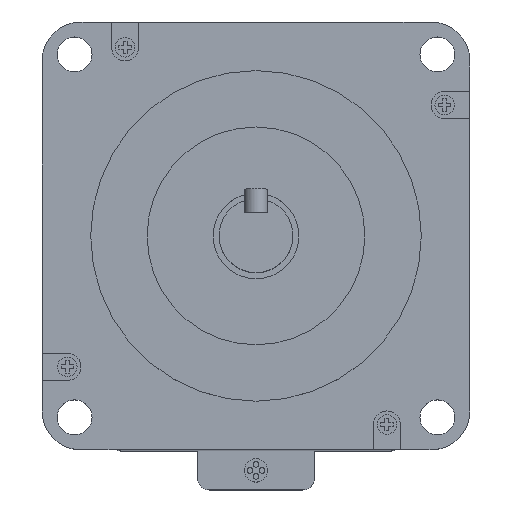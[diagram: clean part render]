
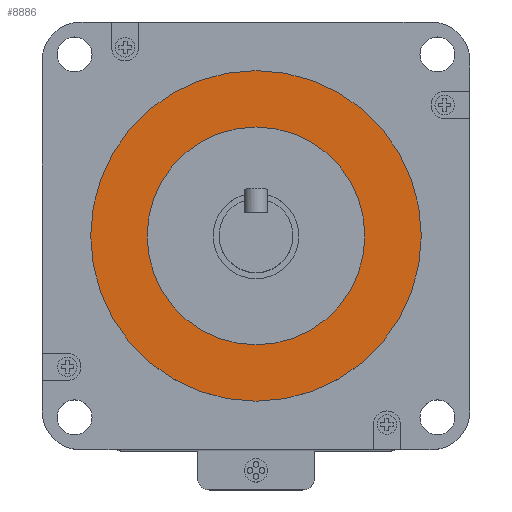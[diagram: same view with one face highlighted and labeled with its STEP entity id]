
A CAD part, top view. The second image highlights one B-rep face of the part: STEP entity #8886.
In plain terms, the highlighted planar face has unit normal (0, 0, 1).
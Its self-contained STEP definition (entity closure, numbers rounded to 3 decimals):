
#57 = EDGE_CURVE ( 'NONE', #5222, #2328, #1989, .T. ) ;
#86 = FACE_BOUND ( 'NONE', #8125, .T. ) ;
#608 = ORIENTED_EDGE ( 'NONE', *, *, #6878, .F. ) ;
#1197 = DIRECTION ( 'NONE',  ( -1., 0., 0. ) ) ;
#1380 = ORIENTED_EDGE ( 'NONE', *, *, #4191, .F. ) ;
#1716 = AXIS2_PLACEMENT_3D ( 'NONE', #4685, #5412, #1197 ) ;
#1894 = CARTESIAN_POINT ( 'NONE',  ( 42.5, 0., 3.5 ) ) ;
#1989 = CIRCLE ( 'NONE', #1716, 42.5 ) ;
#2328 = VERTEX_POINT ( 'NONE', #8839 ) ;
#2784 = PLANE ( 'NONE',  #5245 ) ;
#2847 = CIRCLE ( 'NONE', #3081, 28. ) ;
#2910 = CARTESIAN_POINT ( 'NONE',  ( -28., 0., 3.5 ) ) ;
#3081 = AXIS2_PLACEMENT_3D ( 'NONE', #3500, #3464, #5647 ) ;
#3177 = AXIS2_PLACEMENT_3D ( 'NONE', #8312, #4044, #7525 ) ;
#3464 = DIRECTION ( 'NONE',  ( 0., 0., 1. ) ) ;
#3500 = CARTESIAN_POINT ( 'NONE',  ( 0., 0., 3.5 ) ) ;
#4044 = DIRECTION ( 'NONE',  ( 0., 0., -1. ) ) ;
#4191 = EDGE_CURVE ( 'NONE', #2328, #5222, #5044, .T. ) ;
#4241 = CARTESIAN_POINT ( 'NONE',  ( 0., 0., 3.5 ) ) ;
#4612 = CIRCLE ( 'NONE', #5352, 28. ) ;
#4685 = CARTESIAN_POINT ( 'NONE',  ( 0., 0., 3.5 ) ) ;
#4853 = DIRECTION ( 'NONE',  ( -1., 0., 0. ) ) ;
#4915 = EDGE_LOOP ( 'NONE', ( #1380, #8748 ) ) ;
#5044 = CIRCLE ( 'NONE', #3177, 42.5 ) ;
#5222 = VERTEX_POINT ( 'NONE', #1894 ) ;
#5245 = AXIS2_PLACEMENT_3D ( 'NONE', #4241, #7749, #8413 ) ;
#5352 = AXIS2_PLACEMENT_3D ( 'NONE', #7711, #6997, #4853 ) ;
#5412 = DIRECTION ( 'NONE',  ( 0., 0., -1. ) ) ;
#5647 = DIRECTION ( 'NONE',  ( -1., 0., 0. ) ) ;
#6059 = VERTEX_POINT ( 'NONE', #7196 ) ;
#6382 = FACE_OUTER_BOUND ( 'NONE', #4915, .T. ) ;
#6673 = VERTEX_POINT ( 'NONE', #2910 ) ;
#6878 = EDGE_CURVE ( 'NONE', #6059, #6673, #4612, .T. ) ;
#6882 = ORIENTED_EDGE ( 'NONE', *, *, #7961, .F. ) ;
#6997 = DIRECTION ( 'NONE',  ( 0., 0., 1. ) ) ;
#7196 = CARTESIAN_POINT ( 'NONE',  ( 28., 0., 3.5 ) ) ;
#7525 = DIRECTION ( 'NONE',  ( -1., 0., 0. ) ) ;
#7711 = CARTESIAN_POINT ( 'NONE',  ( 0., 0., 3.5 ) ) ;
#7749 = DIRECTION ( 'NONE',  ( 0., 0., -1. ) ) ;
#7961 = EDGE_CURVE ( 'NONE', #6673, #6059, #2847, .T. ) ;
#8125 = EDGE_LOOP ( 'NONE', ( #6882, #608 ) ) ;
#8312 = CARTESIAN_POINT ( 'NONE',  ( 0., 0., 3.5 ) ) ;
#8413 = DIRECTION ( 'NONE',  ( -1., 0., 0. ) ) ;
#8748 = ORIENTED_EDGE ( 'NONE', *, *, #57, .F. ) ;
#8839 = CARTESIAN_POINT ( 'NONE',  ( -42.5, 0., 3.5 ) ) ;
#8886 = ADVANCED_FACE ( 'NONE', ( #86, #6382 ), #2784, .F. ) ;
